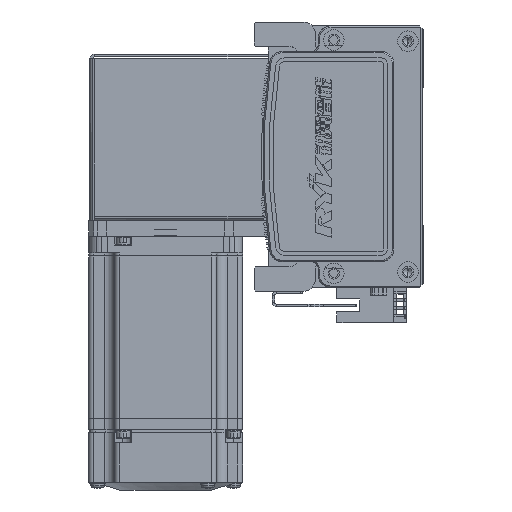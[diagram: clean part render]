
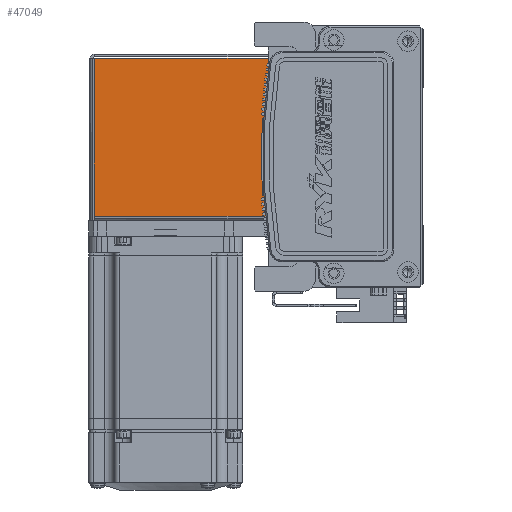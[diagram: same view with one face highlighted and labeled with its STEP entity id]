
A CAD part, left-side view. The second image highlights one B-rep face of the part: STEP entity #47049.
In plain terms, the highlighted planar face has unit normal (-1, 0, 0) as drawn and (0, 0, 1) by its records, which use the part's own axes.
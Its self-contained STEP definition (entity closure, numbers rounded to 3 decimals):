
#413 = CARTESIAN_POINT ( 'NONE',  ( 0., 68.5, 35. ) ) ;
#3821 = VERTEX_POINT ( 'NONE', #57764 ) ;
#3921 = CARTESIAN_POINT ( 'NONE',  ( -30.793, 68.5, 35. ) ) ;
#3960 = DIRECTION ( 'NONE',  ( 0., 0., -1. ) ) ;
#4006 = VERTEX_POINT ( 'NONE', #64846 ) ;
#5622 = DIRECTION ( 'NONE',  ( -1., 0., 0. ) ) ;
#8220 = EDGE_CURVE ( 'NONE', #3821, #54032, #53684, .T. ) ;
#9862 = DIRECTION ( 'NONE',  ( -1., 0., 0. ) ) ;
#14404 = ORIENTED_EDGE ( 'NONE', *, *, #8220, .T. ) ;
#15694 = VECTOR ( 'NONE', #22294, 1000. ) ;
#16135 = VERTEX_POINT ( 'NONE', #3921 ) ;
#17394 = CARTESIAN_POINT ( 'NONE',  ( 30.763, 0.737, 35. ) ) ;
#19014 = DIRECTION ( 'NONE',  ( 0., 1., 0. ) ) ;
#21151 = CARTESIAN_POINT ( 'NONE',  ( -32.5, 0.737, 35. ) ) ;
#21752 = EDGE_CURVE ( 'NONE', #3821, #4006, #53607, .T. ) ;
#22012 = AXIS2_PLACEMENT_3D ( 'NONE', #42091, #3960, #9862 ) ;
#22294 = DIRECTION ( 'NONE',  ( -1., 0., 0. ) ) ;
#25591 = PLANE ( 'NONE',  #22012 ) ;
#34187 = VECTOR ( 'NONE', #54640, 1000. ) ;
#34337 = ORIENTED_EDGE ( 'NONE', *, *, #21752, .F. ) ;
#34762 = CARTESIAN_POINT ( 'NONE',  ( -30.793, 0., 35. ) ) ;
#36412 = CARTESIAN_POINT ( 'NONE',  ( 30.763, 68.5, 35. ) ) ;
#36905 = LINE ( 'NONE', #413, #42825 ) ;
#42091 = CARTESIAN_POINT ( 'NONE',  ( 0., 0., 35. ) ) ;
#42825 = VECTOR ( 'NONE', #5622, 1000. ) ;
#46143 = LINE ( 'NONE', #34762, #51270 ) ;
#47049 = ADVANCED_FACE ( 'NONE', ( #49518 ), #25591, .F. ) ;
#49518 = FACE_OUTER_BOUND ( 'NONE', #68660, .T. ) ;
#51270 = VECTOR ( 'NONE', #19014, 1000. ) ;
#53607 = LINE ( 'NONE', #21151, #15694 ) ;
#53684 = LINE ( 'NONE', #17394, #34187 ) ;
#54032 = VERTEX_POINT ( 'NONE', #36412 ) ;
#54640 = DIRECTION ( 'NONE',  ( 0., 1., 0. ) ) ;
#57764 = CARTESIAN_POINT ( 'NONE',  ( 30.763, 0.737, 35. ) ) ;
#58501 = ORIENTED_EDGE ( 'NONE', *, *, #60236, .F. ) ;
#60037 = EDGE_CURVE ( 'NONE', #54032, #16135, #36905, .T. ) ;
#60236 = EDGE_CURVE ( 'NONE', #4006, #16135, #46143, .T. ) ;
#64275 = ORIENTED_EDGE ( 'NONE', *, *, #60037, .T. ) ;
#64846 = CARTESIAN_POINT ( 'NONE',  ( -30.793, 0.737, 35. ) ) ;
#68660 = EDGE_LOOP ( 'NONE', ( #14404, #64275, #58501, #34337 ) ) ;
